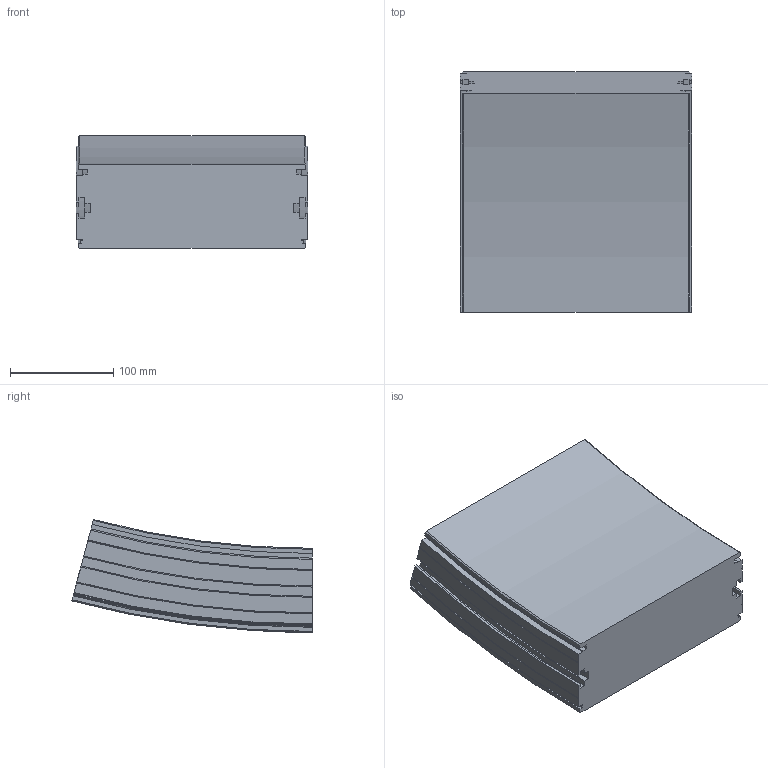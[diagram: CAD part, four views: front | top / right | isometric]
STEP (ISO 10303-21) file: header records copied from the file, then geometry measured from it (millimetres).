
FILE_DESCRIPTION(/* description */ ('VERTIKALKURVA S220 R860'),/* implementation_level */ '2;1');
FILE_NAME(/* name */ '\\carryline.intra\privat\users\mathias\Desktop\Tillfälliga filer\220-5695+220-2000-NER-01.stp',/* time_stamp */ '2018-11-29T14:42:25+01:00',/* author */ ('MD'),/* organization */ ('CARRYLINE'),/* preprocessor_version */ 'ST-DEVELOPER v17',/* originating_system */ 'Autodesk Inventor 2018',/* authorisation */ '');
FILE_SCHEMA (('AUTOMOTIVE_DESIGN { 1 0 10303 214 3 1 1 }'));
Length unit declared in the file: millimetre
Products named in the file (1): 220-5695+220-2000-NER-01
Bounding box: 224 x 232.81 x 109.37 mm (x, y, z)
Volume: 3978867.7 mm3; surface area: 204623.2 mm2
Topology: 1 solids, 1 shells, 113 faces, 318 edges, 212 vertices
Faces by surface type: plane 48, cylinder 31, bspline 14, cone 14, torus 6
Entity records: 8328 total; most frequent: CARTESIAN_POINT 5360, ORIENTED_EDGE 636, DIRECTION 576, EDGE_CURVE 318, VERTEX_POINT 212, AXIS2_PLACEMENT_3D 199, LINE 178, VECTOR 178
